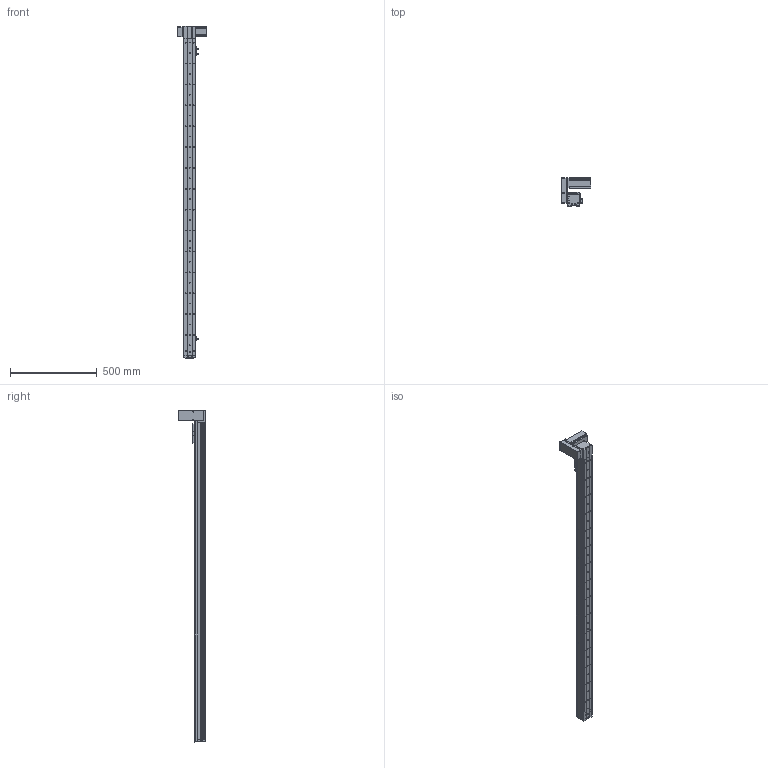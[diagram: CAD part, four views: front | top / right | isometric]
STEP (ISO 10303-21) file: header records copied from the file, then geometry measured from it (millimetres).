
FILE_DESCRIPTION (( 'STEP AP214' ), '1' );
FILE_NAME ('KSD68BS-S1650-MRU-CR.STEP', '2019-11-08T06:32:20', ( '微软用户' ), ( '微软中国' ), 'SwSTEP 2.0', 'SolidWorks 2014', '' );
FILE_SCHEMA (( 'AUTOMOTIVE_DESIGN' ));
Length unit declared in the file: millimetre
Products named in the file (14): 68遵裔啣揤啣1; 悵誘欶奻狟殏; 68宽马达安装板连板上折同步带; 感应片68宽全封闭; U倰嫖萇EEㄜSX672; 台达ECMA－C20604AS伺服电机（400W); KSD68BS 1650行程底板全封闭; KSD68BS 1650行程盖板全封闭; KSD68BS-S1650-MRU-CR; 68宽单导轨全封闭丝杆传动安装板1防护罩; KSD68BS 1650行程侧板全封闭; 68宽单导轨全封闭同步带端板; 68单导轨全封闭同步带电机座右; 68单导轨全封闭同步带安装板
Assembly tree (17 placements, depth 2):
  KSD68BS-S1650-MRU-CR
    KSD68BS 1650行程底板全封闭
    台达ECMA－C20604AS伺服电机（400W)
    U倰嫖萇EEㄜSX672  x3
    感应片68宽全封闭
    68宽马达安装板连板上折同步带
    悵誘欶奻狟殏
    68单导轨全封闭同步带安装板
    68单导轨全封闭同步带电机座右
    68宽单导轨全封闭同步带端板
    KSD68BS 1650行程侧板全封闭  x2
    68宽单导轨全封闭丝杆传动安装板1防护罩
    68遵裔啣揤啣1  x2
    KSD68BS 1650行程盖板全封闭
Bounding box: 167.2 x 159.5 x 1908.1 mm (x, y, z)
Volume: 3412906.3 mm3; surface area: 1385226.4 mm2
Topology: 18 solids, 18 shells, 1620 faces, 4673 edges, 2975 vertices
Faces by surface type: cylinder 797, plane 631, cone 192
Entity records: 52962 total; most frequent: CARTESIAN_POINT 9197, DIRECTION 7885, ORIENTED_EDGE 7542, EDGE_CURVE 3771, AXIS2_PLACEMENT_3D 2877, VERTEX_POINT 2473, LINE 2131, VECTOR 2131
